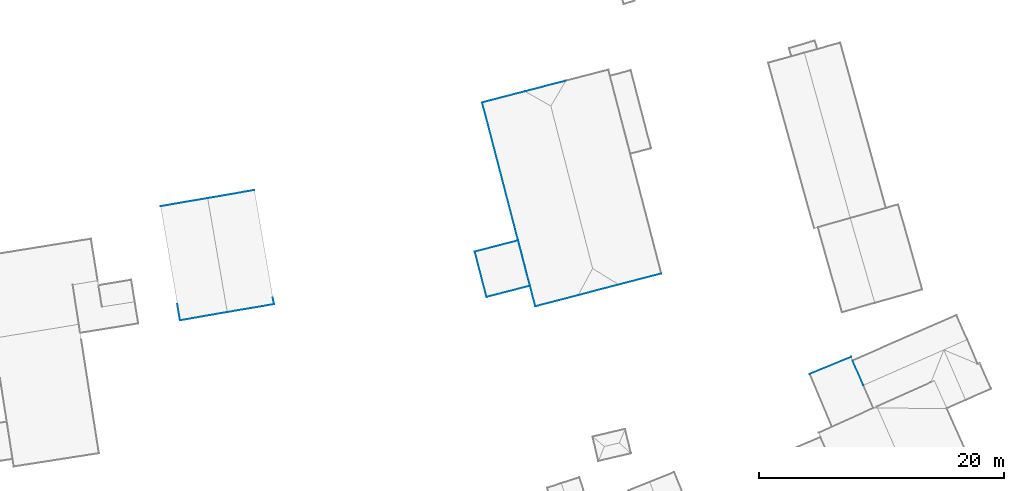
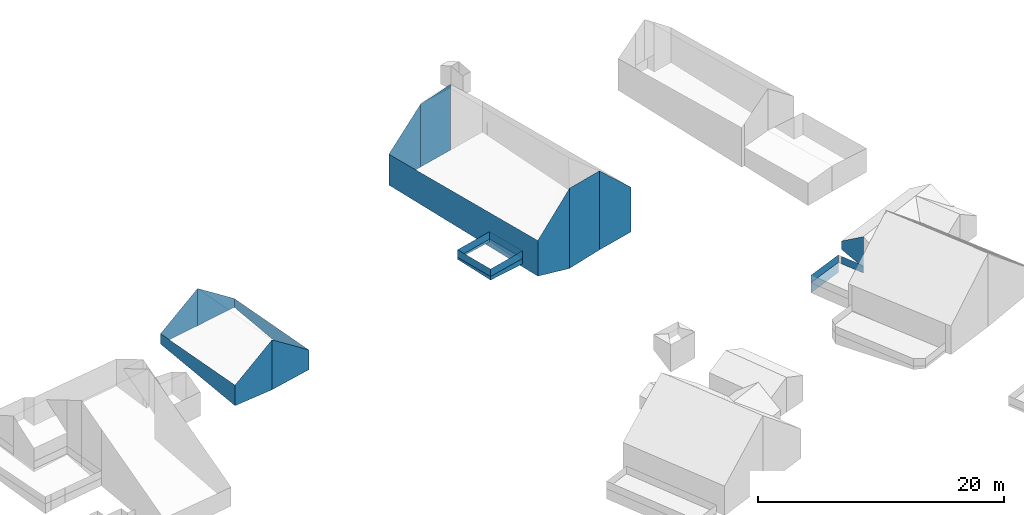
# Not in any storey, part 36 of 59: 30 walls.
"""IFC4 building model written with IfcOpenShell, lengths in metres."""

from ifc_helpers import new_model, entity, si_unit, converted_unit, frame, origin, place, context, subcontext, project, spatial, face_set, surface_model, element, save


model = new_model("IFC4")

# Units and contexts
model_context = context("Model", 3, precision=1e-05, world=origin())
body_context = subcontext(model_context, "Body", "Model", "MODEL_VIEW")
ifc_project = project(units=[converted_unit("PLANEANGLEUNIT", "DEGREE", entity("IfcRatioMeasure", 0.0174532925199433), si_unit("PLANEANGLEUNIT", "RADIAN"), dimensions=[0, 0, 0, 0, 0, 0, 0]), si_unit("AREAUNIT", "SQUARE_METRE"), si_unit("LENGTHUNIT", "METRE")], contexts=[model_context])

# Site, building
site_placement = place(None, origin())
site = spatial("IfcSite", under=ifc_project, at=site_placement, Name="_site")
building_1_placement = place(site_placement, origin())
building_1 = spatial("IfcBuilding", under=site, at=building_1_placement, Name="_building")

# Walls
wall_1_placement = place(building_1_placement, origin())
element("IfcWall", 1, at=wall_1_placement, inside=building_1, Name="Wall", PredefinedType="NOTDEFINED", context=body_context, shape_type="SurfaceModel", body=[
    surface_model("IfcFaceBasedSurfaceModel", [(232.31, 233.869, 220.08), (231.43, 235.881, 218.74), (231.43, 235.881, 217.89), (232.31, 233.869, 216.994)], [face_set([[[0, 1, 2, 3]]])]),
])
for number, where, name in (
    (2, (0.0, 0.0, 0.0), "Wall"),
    (3, (0.0, 0.0, 0.0), "Wall"),
):
    element("IfcWall", number, at=place(building_1_placement, frame(where)), inside=building_1, Name=name, PredefinedType="NOTDEFINED", context=body_context, shape_type="SurfaceModel", body=[
        surface_model("IfcFaceBasedSurfaceModel", [(227.93, 234.789, 216.486), (231.31, 236.18, 216.486), (231.31, 236.18, 217.236), (227.93, 234.789, 217.236)], [face_set([[[0, 1, 2, 3]]])]),
    ])
for number, where, name in (
    (4, (0.0, 0.0, 0.0), "Wall"),
    (5, (0.0, 0.0, 0.0), "Wall"),
):
    element("IfcWall", number, at=place(building_1_placement, frame(where)), inside=building_1, Name=name, PredefinedType="NOTDEFINED", context=body_context, shape_type="SurfaceModel", body=[
        surface_model("IfcFaceBasedSurfaceModel", [(231.43, 235.881, 216.47), (232.31, 233.869, 216.47), (232.31, 233.869, 217.22), (231.43, 235.881, 217.22)], [face_set([[[0, 1, 2, 3]]])]),
    ])
wall_2_placement = place(building_1_placement, origin())
element("IfcWall", 6, at=wall_2_placement, inside=building_1, Name="Wall", PredefinedType="NOTDEFINED", context=body_context, shape_type="SurfaceModel", body=[
    surface_model("IfcFaceBasedSurfaceModel", [(227.93, 234.789, 216.486), (231.31, 236.18, 216.486), (231.31, 236.18, 215.486), (227.93, 234.789, 215.486)], [face_set([[[0, 1, 2, 3]]])]),
])

# Building
building_2_placement = place(site_placement, origin())
building_2 = spatial("IfcBuilding", under=site, at=building_2_placement, Name="_building")

# Walls
wall_3_placement = place(building_2_placement, origin())
element("IfcWall", 7, at=wall_3_placement, inside=building_2, Name="Wall", PredefinedType="NOTDEFINED", context=body_context, shape_type="SurfaceModel", body=[
    surface_model("IfcFaceBasedSurfaceModel", [(178.73, 249.15, 224.44), (182.55, 249.811, 221.71), (182.55, 249.811, 220.823), (178.73, 249.15, 220.736)], [face_set([[[0, 1, 2, 3]]])]),
])
wall_4_placement = place(building_2_placement, origin())
element("IfcWall", 8, at=wall_4_placement, inside=building_2, Name="Wall", PredefinedType="NOTDEFINED", context=body_context, shape_type="SurfaceModel", body=[
    surface_model("IfcFaceBasedSurfaceModel", [(174.88, 248.49, 221.71), (178.73, 249.15, 224.44), (178.73, 249.15, 220.736), (174.88, 248.49, 220.678)], [face_set([[[0, 1, 2, 3]]])]),
])
wall_5_placement = place(building_2_placement, origin())
element("IfcWall", 9, at=wall_5_placement, inside=building_2, Name="Wall", PredefinedType="NOTDEFINED", context=body_context, shape_type="SurfaceModel", body=[
    surface_model("IfcFaceBasedSurfaceModel", [(180.33, 239.84, 224.44), (176.48, 239.17, 221.71), (176.48, 239.17, 219.656), (180.33, 239.84, 219.484)], [face_set([[[0, 1, 2, 3]]])]),
])
wall_6_placement = place(building_2_placement, origin())
element("IfcWall", 10, at=wall_6_placement, inside=building_2, Name="Wall", PredefinedType="NOTDEFINED", context=body_context, shape_type="SurfaceModel", body=[
    surface_model("IfcFaceBasedSurfaceModel", [(184.15, 240.49, 221.71), (180.33, 239.84, 224.44), (180.33, 239.84, 219.484), (184.15, 240.49, 219.739)], [face_set([[[0, 1, 2, 3]]])]),
])
wall_7_placement = place(building_2_placement, origin())
element("IfcWall", 11, at=wall_7_placement, inside=building_2, Name="Wall", PredefinedType="NOTDEFINED", context=body_context, shape_type="SurfaceModel", body=[
    surface_model("IfcFaceBasedSurfaceModel", [(182.55, 249.811, 221.71), (184.15, 240.49, 221.71), (184.15, 240.49, 219.739), (182.55, 249.811, 220.823)], [face_set([[[0, 1, 2, 3]]])]),
])
wall_8_placement = place(building_2_placement, origin())
element("IfcWall", 12, at=wall_8_placement, inside=building_2, Name="Wall", PredefinedType="NOTDEFINED", context=body_context, shape_type="SurfaceModel", body=[
    surface_model("IfcFaceBasedSurfaceModel", [(176.48, 239.17, 221.71), (174.88, 248.49, 221.71), (174.88, 248.49, 220.678), (176.48, 239.17, 219.656)], [face_set([[[0, 1, 2, 3]]])]),
])

# Building
building_3_placement = place(site_placement, origin())
building_3 = spatial("IfcBuilding", under=site, at=building_3_placement, Name="_building")

# Walls
wall_9_placement = place(building_3_placement, origin())
element("IfcWall", 13, at=wall_9_placement, inside=building_3, Name="Wall", PredefinedType="NOTDEFINED", context=body_context, shape_type="SurfaceModel", body=[
    surface_model("IfcFaceBasedSurfaceModel", [(204.67, 257.881, 228.33), (207.99, 258.74, 228.61), (207.99, 258.74, 222.09), (204.67, 257.881, 222.089)], [face_set([[[0, 1, 2, 3]]])]),
])
wall_10_placement = place(building_3_placement, origin())
element("IfcWall", 14, at=wall_10_placement, inside=building_3, Name="Wall", PredefinedType="NOTDEFINED", context=body_context, shape_type="SurfaceModel", body=[
    surface_model("IfcFaceBasedSurfaceModel", [(201.17, 256.971, 225.14), (204.67, 257.881, 228.33), (204.67, 257.881, 222.089), (201.17, 256.971, 222.088)], [face_set([[[0, 1, 2, 3]]])]),
])
wall_11_placement = place(building_3_placement, origin())
element("IfcWall", 15, at=wall_11_placement, inside=building_3, Name="Wall", PredefinedType="NOTDEFINED", context=body_context, shape_type="SurfaceModel", body=[
    surface_model("IfcFaceBasedSurfaceModel", [(215.81, 243.0, 225.21), (212.31, 242.09, 228.61), (212.31, 242.09, 220.781), (215.81, 243.0, 220.793)], [face_set([[[0, 1, 2, 3]]])]),
])
wall_12_placement = place(building_3_placement, origin())
element("IfcWall", 16, at=wall_12_placement, inside=building_3, Name="Wall", PredefinedType="NOTDEFINED", context=body_context, shape_type="SurfaceModel", body=[
    surface_model("IfcFaceBasedSurfaceModel", [(212.31, 242.09, 228.61), (209.0, 241.221, 228.57), (209.0, 241.221, 220.624), (212.31, 242.09, 220.781)], [face_set([[[0, 1, 2, 3]]])]),
])
wall_13_placement = place(building_3_placement, origin())
element("IfcWall", 17, at=wall_13_placement, inside=building_3, Name="Wall", PredefinedType="NOTDEFINED", context=body_context, shape_type="SurfaceModel", body=[
    surface_model("IfcFaceBasedSurfaceModel", [(209.0, 241.221, 228.57), (205.51, 240.311, 225.18), (205.51, 240.311, 221.641), (209.0, 241.221, 220.624)], [face_set([[[0, 1, 2, 3]]])]),
])
wall_14_placement = place(building_3_placement, origin())
element("IfcWall", 18, at=wall_14_placement, inside=building_3, Name="Wall", PredefinedType="NOTDEFINED", context=body_context, shape_type="SurfaceModel", body=[
    surface_model("IfcFaceBasedSurfaceModel", [(205.51, 240.311, 225.18), (201.17, 256.971, 225.14), (201.17, 256.971, 222.088), (205.51, 240.311, 221.641)], [face_set([[[0, 1, 2, 3]]])]),
])
wall_15_placement = place(building_3_placement, origin())
element("IfcWall", 19, at=wall_15_placement, inside=building_3, Name="Wall", PredefinedType="NOTDEFINED", context=body_context, shape_type="SurfaceModel", body=[
    surface_model("IfcFaceBasedSurfaceModel", [(200.57, 244.779, 222.53), (204.11, 245.699, 222.53), (204.11, 245.699, 223.28), (200.57, 244.779, 223.28)], [face_set([[[0, 1, 2, 3]]])]),
])
wall_16_placement = place(building_3_placement, origin())
element("IfcWall", 20, at=wall_16_placement, inside=building_3, Name="Wall", PredefinedType="NOTDEFINED", context=body_context, shape_type="SurfaceModel", body=[
    surface_model("IfcFaceBasedSurfaceModel", [(201.53, 241.08, 222.53), (200.57, 244.779, 222.53), (200.57, 244.779, 223.28), (201.53, 241.08, 223.28)], [face_set([[[0, 1, 2, 3]]])]),
])
wall_17_placement = place(building_3_placement, origin())
element("IfcWall", 21, at=wall_17_placement, inside=building_3, Name="Wall", PredefinedType="NOTDEFINED", context=body_context, shape_type="SurfaceModel", body=[
    surface_model("IfcFaceBasedSurfaceModel", [(205.07, 242.0, 222.53), (201.53, 241.08, 222.53), (201.53, 241.08, 223.28), (205.07, 242.0, 223.28)], [face_set([[[0, 1, 2, 3]]])]),
])
wall_18_placement = place(building_3_placement, origin())
element("IfcWall", 22, at=wall_18_placement, inside=building_3, Name="Wall", PredefinedType="NOTDEFINED", context=body_context, shape_type="SurfaceModel", body=[
    surface_model("IfcFaceBasedSurfaceModel", [(204.11, 245.699, 222.53), (205.07, 242.0, 222.53), (205.07, 242.0, 223.28), (204.11, 245.699, 223.28)], [face_set([[[0, 1, 2, 3]]])]),
])
wall_19_placement = place(building_3_placement, origin())
element("IfcWall", 23, at=wall_19_placement, inside=building_3, Name="Wall", PredefinedType="NOTDEFINED", context=body_context, shape_type="SurfaceModel", body=[
    surface_model("IfcFaceBasedSurfaceModel", [(200.57, 244.779, 222.53), (204.11, 245.699, 222.53), (204.11, 245.699, 223.28), (200.57, 244.779, 223.28)], [face_set([[[0, 1, 2, 3]]])]),
])
wall_20_placement = place(building_3_placement, origin())
element("IfcWall", 24, at=wall_20_placement, inside=building_3, Name="Wall", PredefinedType="NOTDEFINED", context=body_context, shape_type="SurfaceModel", body=[
    surface_model("IfcFaceBasedSurfaceModel", [(201.53, 241.08, 222.53), (200.57, 244.779, 222.53), (200.57, 244.779, 223.28), (201.53, 241.08, 223.28)], [face_set([[[0, 1, 2, 3]]])]),
])
wall_21_placement = place(building_3_placement, origin())
element("IfcWall", 25, at=wall_21_placement, inside=building_3, Name="Wall", PredefinedType="NOTDEFINED", context=body_context, shape_type="SurfaceModel", body=[
    surface_model("IfcFaceBasedSurfaceModel", [(205.07, 242.0, 222.53), (201.53, 241.08, 222.53), (201.53, 241.08, 223.28), (205.07, 242.0, 223.28)], [face_set([[[0, 1, 2, 3]]])]),
])
wall_22_placement = place(building_3_placement, origin())
element("IfcWall", 26, at=wall_22_placement, inside=building_3, Name="Wall", PredefinedType="NOTDEFINED", context=body_context, shape_type="SurfaceModel", body=[
    surface_model("IfcFaceBasedSurfaceModel", [(204.11, 245.699, 222.53), (205.07, 242.0, 222.53), (205.07, 242.0, 223.28), (204.11, 245.699, 223.28)], [face_set([[[0, 1, 2, 3]]])]),
])
wall_23_placement = place(building_3_placement, origin())
element("IfcWall", 27, at=wall_23_placement, inside=building_3, Name="Wall", PredefinedType="NOTDEFINED", context=body_context, shape_type="SurfaceModel", body=[
    surface_model("IfcFaceBasedSurfaceModel", [(200.57, 244.779, 222.53), (204.11, 245.699, 222.53), (204.11, 245.699, 222.277), (200.57, 244.779, 222.33)], [face_set([[[0, 1, 2, 3]]])]),
])
wall_24_placement = place(building_3_placement, origin())
element("IfcWall", 28, at=wall_24_placement, inside=building_3, Name="Wall", PredefinedType="NOTDEFINED", context=body_context, shape_type="SurfaceModel", body=[
    surface_model("IfcFaceBasedSurfaceModel", [(201.53, 241.08, 222.53), (200.57, 244.779, 222.53), (200.57, 244.779, 222.33), (201.53, 241.08, 222.177)], [face_set([[[0, 1, 2, 3]]])]),
])
wall_25_placement = place(building_3_placement, origin())
element("IfcWall", 29, at=wall_25_placement, inside=building_3, Name="Wall", PredefinedType="NOTDEFINED", context=body_context, shape_type="SurfaceModel", body=[
    surface_model("IfcFaceBasedSurfaceModel", [(205.07, 242.0, 222.53), (201.53, 241.08, 222.53), (201.53, 241.08, 222.177), (205.07, 242.0, 222.003)], [face_set([[[0, 1, 2, 3]]])]),
])
wall_26_placement = place(building_3_placement, origin())
element("IfcWall", 30, at=wall_26_placement, inside=building_3, Name="Wall", PredefinedType="NOTDEFINED", context=body_context, shape_type="SurfaceModel", body=[
    surface_model("IfcFaceBasedSurfaceModel", [(204.11, 245.699, 222.53), (205.07, 242.0, 222.53), (205.07, 242.0, 222.003), (204.11, 245.699, 222.277)], [face_set([[[0, 1, 2, 3]]])]),
])

save(model, "model.ifc")
